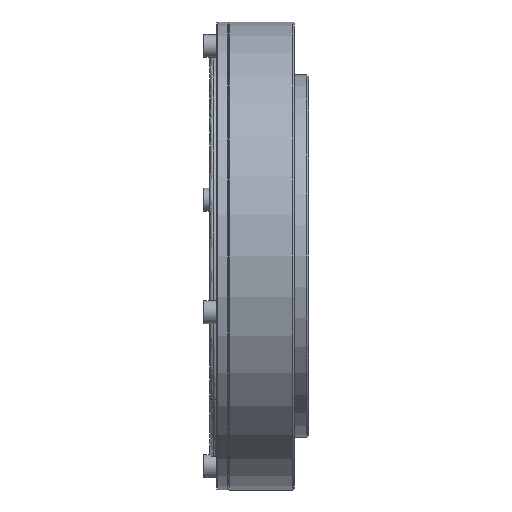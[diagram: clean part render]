
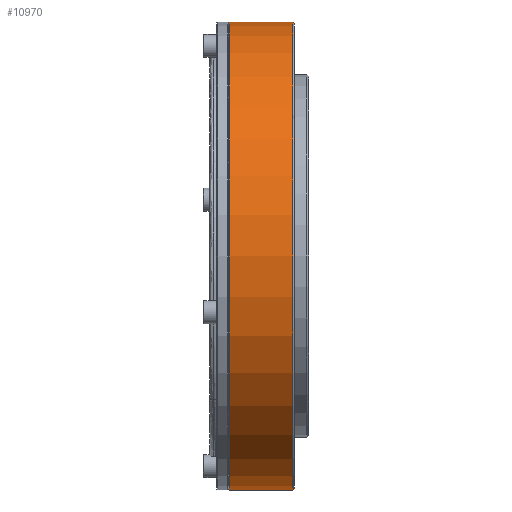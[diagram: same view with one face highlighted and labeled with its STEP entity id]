
A CAD part, front view. The second image highlights one B-rep face of the part: STEP entity #10970.
In plain terms, the highlighted cylindrical face has radius 71 mm (diameter 142 mm), a partial arc.
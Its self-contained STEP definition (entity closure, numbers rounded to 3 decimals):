
#608 = CARTESIAN_POINT ( 'NONE',  ( 19.5, 0., 0. ) ) ;
#1125 = VERTEX_POINT ( 'NONE', #18578 ) ;
#2001 = CIRCLE ( 'NONE', #7279, 71. ) ;
#2344 = DIRECTION ( 'NONE',  ( 1., 0., 0. ) ) ;
#2445 = CARTESIAN_POINT ( 'NONE',  ( 0.3, -71., 0. ) ) ;
#2587 = AXIS2_PLACEMENT_3D ( 'NONE', #6466, #11883, #23202 ) ;
#2645 = CARTESIAN_POINT ( 'NONE',  ( 0.3, 0., 0. ) ) ;
#2728 = ORIENTED_EDGE ( 'NONE', *, *, #16867, .T. ) ;
#2791 = DIRECTION ( 'NONE',  ( 1., 0., 0. ) ) ;
#3024 = EDGE_CURVE ( 'NONE', #1125, #3986, #23803, .T. ) ;
#3986 = VERTEX_POINT ( 'NONE', #23417 ) ;
#4301 = CARTESIAN_POINT ( 'NONE',  ( 57.5, 0., -71. ) ) ;
#4416 = AXIS2_PLACEMENT_3D ( 'NONE', #608, #17384, #9798 ) ;
#4533 = CYLINDRICAL_SURFACE ( 'NONE', #2587, 71. ) ;
#6466 = CARTESIAN_POINT ( 'NONE',  ( 57.5, 0., 0. ) ) ;
#7279 = AXIS2_PLACEMENT_3D ( 'NONE', #2645, #17552, #15814 ) ;
#7783 = LINE ( 'NONE', #4301, #17239 ) ;
#8184 = CIRCLE ( 'NONE', #24097, 71. ) ;
#8633 = VERTEX_POINT ( 'NONE', #18607 ) ;
#8756 = EDGE_CURVE ( 'NONE', #9608, #3986, #20443, .T. ) ;
#8863 = VECTOR ( 'NONE', #2791, 1000. ) ;
#9594 = EDGE_CURVE ( 'NONE', #8633, #9608, #7783, .T. ) ;
#9608 = VERTEX_POINT ( 'NONE', #15098 ) ;
#9798 = DIRECTION ( 'NONE',  ( 0., 0., -1. ) ) ;
#10879 = VERTEX_POINT ( 'NONE', #2445 ) ;
#10970 = ADVANCED_FACE ( 'NONE', ( #15113 ), #4533, .T. ) ;
#11883 = DIRECTION ( 'NONE',  ( 1., 0., 0. ) ) ;
#13694 = DIRECTION ( 'NONE',  ( 0., 0., -1. ) ) ;
#13771 = CARTESIAN_POINT ( 'NONE',  ( 0.3, 0., 0. ) ) ;
#14549 = EDGE_LOOP ( 'NONE', ( #23374, #21981, #2728, #22201, #14759 ) ) ;
#14759 = ORIENTED_EDGE ( 'NONE', *, *, #8756, .T. ) ;
#15098 = CARTESIAN_POINT ( 'NONE',  ( 19.5, 0., -71. ) ) ;
#15113 = FACE_OUTER_BOUND ( 'NONE', #14549, .T. ) ;
#15723 = CARTESIAN_POINT ( 'NONE',  ( 57.5, 0., 71. ) ) ;
#15814 = DIRECTION ( 'NONE',  ( 0., 0., -1. ) ) ;
#16867 = EDGE_CURVE ( 'NONE', #10879, #8633, #2001, .T. ) ;
#17239 = VECTOR ( 'NONE', #19439, 1000. ) ;
#17384 = DIRECTION ( 'NONE',  ( -1., 0., 0. ) ) ;
#17552 = DIRECTION ( 'NONE',  ( 1., 0., 0. ) ) ;
#18578 = CARTESIAN_POINT ( 'NONE',  ( 0.3, 0., 71. ) ) ;
#18607 = CARTESIAN_POINT ( 'NONE',  ( 0.3, 0., -71. ) ) ;
#19439 = DIRECTION ( 'NONE',  ( 1., 0., 0. ) ) ;
#20443 = CIRCLE ( 'NONE', #4416, 71. ) ;
#21981 = ORIENTED_EDGE ( 'NONE', *, *, #23869, .T. ) ;
#22201 = ORIENTED_EDGE ( 'NONE', *, *, #9594, .T. ) ;
#23202 = DIRECTION ( 'NONE',  ( 0., 0., -1. ) ) ;
#23374 = ORIENTED_EDGE ( 'NONE', *, *, #3024, .F. ) ;
#23417 = CARTESIAN_POINT ( 'NONE',  ( 19.5, 0., 71. ) ) ;
#23803 = LINE ( 'NONE', #15723, #8863 ) ;
#23869 = EDGE_CURVE ( 'NONE', #1125, #10879, #8184, .T. ) ;
#24097 = AXIS2_PLACEMENT_3D ( 'NONE', #13771, #2344, #13694 ) ;
